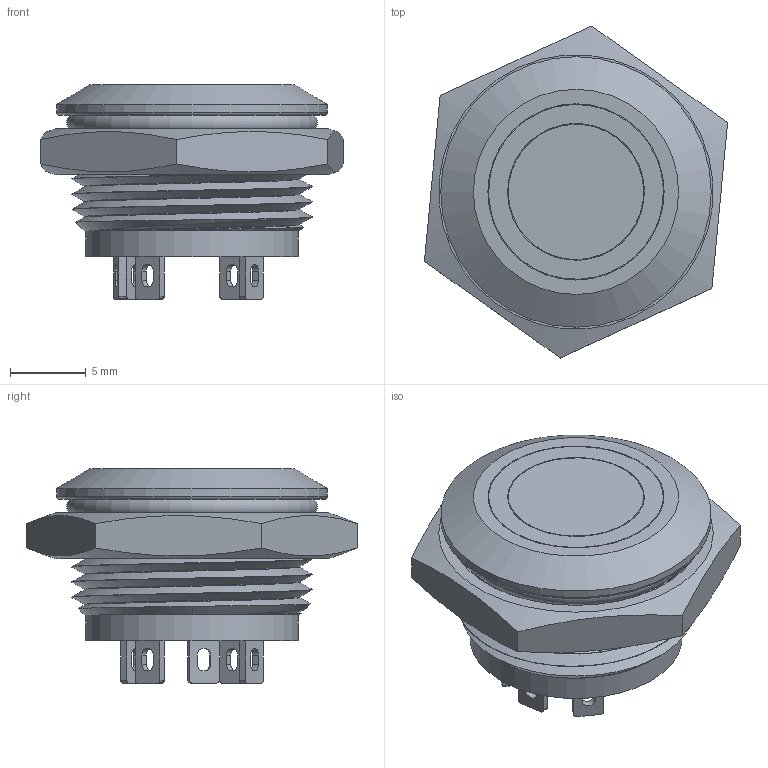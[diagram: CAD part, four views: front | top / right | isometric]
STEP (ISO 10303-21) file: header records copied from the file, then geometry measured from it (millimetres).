
FILE_DESCRIPTION(/* description */ (''),/* implementation_level */ '2;1');
FILE_NAME(/* name */ 'c:\worker\convert-fusion-r01\tmp\job-1\85\output\files\c52bf59f-be8b-4b20-b9d6-7dea3388bb2e\c9a320f0-5c35-4d29-82f4-560dbbc1f940.stp',/* time_stamp */ '2021-01-14T12:59:39+00:00',/* author */ (''),/* organization */ (''),/* preprocessor_version */ 'ST-DEVELOPER v18.1',/* originating_system */ 'Autodesk Translation Framework v9.7.1.1290',/* authorisation */ '');
FILE_SCHEMA (('AUTOMOTIVE_DESIGN { 1 0 10303 214 3 1 1 }'));
Length unit declared in the file: millimetre
Products named in the file (1): A16EJSRG
Bounding box: 19.95 x 21.84 x 14.1 mm (x, y, z)
Volume: 1981.4 mm3; surface area: 4640.9 mm2
Topology: 15 solids, 15 shells, 376 faces, 947 edges, 622 vertices
Faces by surface type: plane 242, cylinder 85, bspline 26, cone 16, torus 7
Full cylindrical faces by diameter (mm): 0.1 x1, 1.2 x6, 2.2 x2, 2.3 x1, 2.6 x1, 5.8 x1, 8.9 x1, 9 x1, 10.5 x1, 11.5 x1, 11.6 x1, 12.4 x1, 13.2 x2, 13.3 x1, 13.4 x1, 14 x1, 14.2 x6, 15.8 x6, 16 x2, 17.8 x1
Entity records: 20442 total; most frequent: CARTESIAN_POINT 11369, ORIENTED_EDGE 1894, DIRECTION 1733, EDGE_CURVE 947, LINE 659, VECTOR 659, VERTEX_POINT 622, AXIS2_PLACEMENT_3D 537
